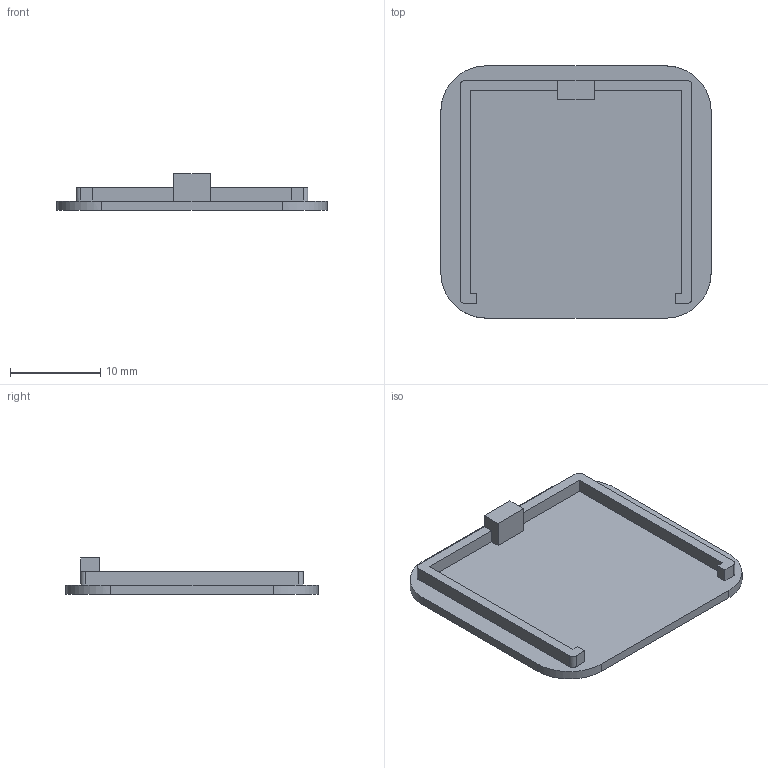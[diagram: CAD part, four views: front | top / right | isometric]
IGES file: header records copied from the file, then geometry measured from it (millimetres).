
Global section: file name: camera_back_cover_v002; native system: unknown; preprocessor: unknown; author: unknown; organization: unknown; date: 20160102.092924; units: millimetre
Bounding box: 30 x 28 x 4 mm (x, y, z)
Volume: 962.7 mm3; surface area: 1991.5 mm2
Topology: 1 solids, 1 shells, 33 faces, 90 edges, 60 vertices
Faces by surface type: bspline 33
